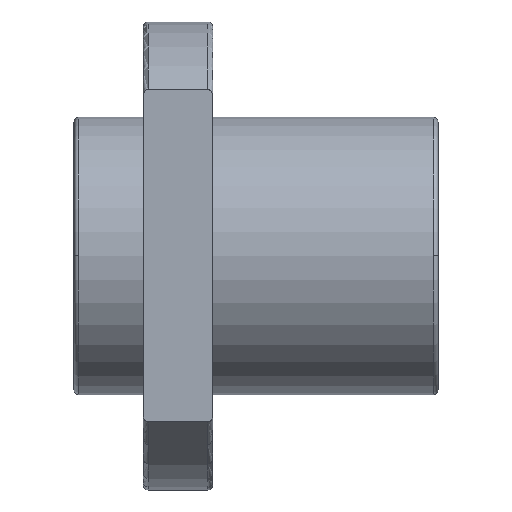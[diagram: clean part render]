
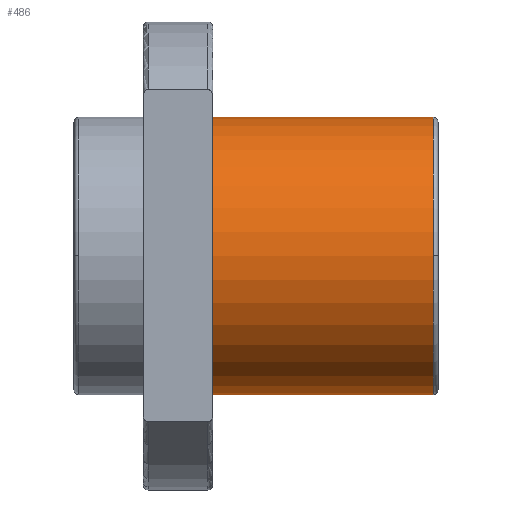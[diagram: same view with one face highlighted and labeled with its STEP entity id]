
A CAD part, top view. The second image highlights one B-rep face of the part: STEP entity #486.
In plain terms, the highlighted cylindrical face has radius 16 mm (diameter 32 mm), a partial arc.
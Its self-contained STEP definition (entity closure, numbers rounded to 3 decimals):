
#335 = TOROIDAL_SURFACE('',#336,15.46,0.54);
#336 = AXIS2_PLACEMENT_3D('',#337,#338,#339);
#337 = CARTESIAN_POINT('',(41.46,0.,0.));
#338 = DIRECTION('',(1.,0.,0.));
#339 = DIRECTION('',(0.,0.,-1.));
#347 = TOROIDAL_SURFACE('',#348,15.46,0.54);
#348 = AXIS2_PLACEMENT_3D('',#349,#350,#351);
#349 = CARTESIAN_POINT('',(41.46,0.,0.));
#350 = DIRECTION('',(1.,0.,0.));
#351 = DIRECTION('',(0.,0.,-1.));
#360 = VERTEX_POINT('',#361);
#361 = CARTESIAN_POINT('',(41.46,16.,0.));
#376 = CYLINDRICAL_SURFACE('',#377,16.);
#377 = AXIS2_PLACEMENT_3D('',#378,#379,#380);
#378 = CARTESIAN_POINT('',(28.73,0.,0.));
#379 = DIRECTION('',(1.,0.,0.));
#380 = DIRECTION('',(-0.,1.,0.));
#388 = EDGE_CURVE('',#360,#389,#391,.T.);
#389 = VERTEX_POINT('',#390);
#390 = CARTESIAN_POINT('',(41.46,0.,16.));
#391 = SURFACE_CURVE('',#392,(#397,#404),.PCURVE_S1.);
#392 = CIRCLE('',#393,16.);
#393 = AXIS2_PLACEMENT_3D('',#394,#395,#396);
#394 = CARTESIAN_POINT('',(41.46,0.,0.));
#395 = DIRECTION('',(1.,0.,0.));
#396 = DIRECTION('',(-0.,1.,0.));
#397 = PCURVE('',#335,#398);
#398 = DEFINITIONAL_REPRESENTATION('',(#399),#403);
#399 = LINE('',#400,#401);
#400 = CARTESIAN_POINT('',(1.571,0.));
#401 = VECTOR('',#402,1.);
#402 = DIRECTION('',(1.,0.));
#403 = ( GEOMETRIC_REPRESENTATION_CONTEXT(2) 
PARAMETRIC_REPRESENTATION_CONTEXT() REPRESENTATION_CONTEXT('2D SPACE',''
  ) );
#404 = PCURVE('',#405,#410);
#405 = CYLINDRICAL_SURFACE('',#406,16.);
#406 = AXIS2_PLACEMENT_3D('',#407,#408,#409);
#407 = CARTESIAN_POINT('',(28.73,0.,0.));
#408 = DIRECTION('',(1.,0.,0.));
#409 = DIRECTION('',(-0.,1.,0.));
#410 = DEFINITIONAL_REPRESENTATION('',(#411),#415);
#411 = LINE('',#412,#413);
#412 = CARTESIAN_POINT('',(0.,12.73));
#413 = VECTOR('',#414,1.);
#414 = DIRECTION('',(1.,0.));
#415 = ( GEOMETRIC_REPRESENTATION_CONTEXT(2) 
PARAMETRIC_REPRESENTATION_CONTEXT() REPRESENTATION_CONTEXT('2D SPACE',''
  ) );
#486 = ADVANCED_FACE('',(#487),#405,.T.);
#487 = FACE_BOUND('',#488,.T.);
#488 = EDGE_LOOP('',(#489,#512,#541,#564,#586));
#489 = ORIENTED_EDGE('',*,*,#490,.F.);
#490 = EDGE_CURVE('',#491,#360,#493,.T.);
#491 = VERTEX_POINT('',#492);
#492 = CARTESIAN_POINT('',(16.,16.,0.));
#493 = SURFACE_CURVE('',#494,(#498,#505),.PCURVE_S1.);
#494 = LINE('',#495,#496);
#495 = CARTESIAN_POINT('',(28.73,16.,0.));
#496 = VECTOR('',#497,1.);
#497 = DIRECTION('',(1.,0.,0.));
#498 = PCURVE('',#405,#499);
#499 = DEFINITIONAL_REPRESENTATION('',(#500),#504);
#500 = LINE('',#501,#502);
#501 = CARTESIAN_POINT('',(0.,0.));
#502 = VECTOR('',#503,1.);
#503 = DIRECTION('',(0.,1.));
#504 = ( GEOMETRIC_REPRESENTATION_CONTEXT(2) 
PARAMETRIC_REPRESENTATION_CONTEXT() REPRESENTATION_CONTEXT('2D SPACE',''
  ) );
#505 = PCURVE('',#376,#506);
#506 = DEFINITIONAL_REPRESENTATION('',(#507),#511);
#507 = LINE('',#508,#509);
#508 = CARTESIAN_POINT('',(6.283,0.));
#509 = VECTOR('',#510,1.);
#510 = DIRECTION('',(0.,1.));
#511 = ( GEOMETRIC_REPRESENTATION_CONTEXT(2) 
PARAMETRIC_REPRESENTATION_CONTEXT() REPRESENTATION_CONTEXT('2D SPACE',''
  ) );
#512 = ORIENTED_EDGE('',*,*,#513,.T.);
#513 = EDGE_CURVE('',#491,#514,#516,.T.);
#514 = VERTEX_POINT('',#515);
#515 = CARTESIAN_POINT('',(16.,-16.,0.));
#516 = SURFACE_CURVE('',#517,(#522,#529),.PCURVE_S1.);
#517 = CIRCLE('',#518,16.);
#518 = AXIS2_PLACEMENT_3D('',#519,#520,#521);
#519 = CARTESIAN_POINT('',(16.,0.,0.));
#520 = DIRECTION('',(1.,0.,0.));
#521 = DIRECTION('',(-0.,1.,0.));
#522 = PCURVE('',#405,#523);
#523 = DEFINITIONAL_REPRESENTATION('',(#524),#528);
#524 = LINE('',#525,#526);
#525 = CARTESIAN_POINT('',(0.,-12.73));
#526 = VECTOR('',#527,1.);
#527 = DIRECTION('',(1.,0.));
#528 = ( GEOMETRIC_REPRESENTATION_CONTEXT(2) 
PARAMETRIC_REPRESENTATION_CONTEXT() REPRESENTATION_CONTEXT('2D SPACE',''
  ) );
#529 = PCURVE('',#530,#535);
#530 = PLANE('',#531);
#531 = AXIS2_PLACEMENT_3D('',#532,#533,#534);
#532 = CARTESIAN_POINT('',(16.,21.23,0.));
#533 = DIRECTION('',(1.,0.,0.));
#534 = DIRECTION('',(0.,1.,0.));
#535 = DEFINITIONAL_REPRESENTATION('',(#536),#540);
#536 = CIRCLE('',#537,16.);
#537 = AXIS2_PLACEMENT_2D('',#538,#539);
#538 = CARTESIAN_POINT('',(-21.23,0.));
#539 = DIRECTION('',(1.,0.));
#540 = ( GEOMETRIC_REPRESENTATION_CONTEXT(2) 
PARAMETRIC_REPRESENTATION_CONTEXT() REPRESENTATION_CONTEXT('2D SPACE',''
  ) );
#541 = ORIENTED_EDGE('',*,*,#542,.F.);
#542 = EDGE_CURVE('',#543,#514,#545,.T.);
#543 = VERTEX_POINT('',#544);
#544 = CARTESIAN_POINT('',(41.46,-16.,0.));
#545 = SURFACE_CURVE('',#546,(#550,#557),.PCURVE_S1.);
#546 = LINE('',#547,#548);
#547 = CARTESIAN_POINT('',(28.73,-16.,0.));
#548 = VECTOR('',#549,1.);
#549 = DIRECTION('',(-1.,-0.,-0.));
#550 = PCURVE('',#405,#551);
#551 = DEFINITIONAL_REPRESENTATION('',(#552),#556);
#552 = LINE('',#553,#554);
#553 = CARTESIAN_POINT('',(3.142,0.));
#554 = VECTOR('',#555,1.);
#555 = DIRECTION('',(0.,-1.));
#556 = ( GEOMETRIC_REPRESENTATION_CONTEXT(2) 
PARAMETRIC_REPRESENTATION_CONTEXT() REPRESENTATION_CONTEXT('2D SPACE',''
  ) );
#557 = PCURVE('',#376,#558);
#558 = DEFINITIONAL_REPRESENTATION('',(#559),#563);
#559 = LINE('',#560,#561);
#560 = CARTESIAN_POINT('',(3.142,0.));
#561 = VECTOR('',#562,1.);
#562 = DIRECTION('',(0.,-1.));
#563 = ( GEOMETRIC_REPRESENTATION_CONTEXT(2) 
PARAMETRIC_REPRESENTATION_CONTEXT() REPRESENTATION_CONTEXT('2D SPACE',''
  ) );
#564 = ORIENTED_EDGE('',*,*,#565,.F.);
#565 = EDGE_CURVE('',#389,#543,#566,.T.);
#566 = SURFACE_CURVE('',#567,(#572,#579),.PCURVE_S1.);
#567 = CIRCLE('',#568,16.);
#568 = AXIS2_PLACEMENT_3D('',#569,#570,#571);
#569 = CARTESIAN_POINT('',(41.46,0.,0.));
#570 = DIRECTION('',(1.,0.,0.));
#571 = DIRECTION('',(-0.,1.,0.));
#572 = PCURVE('',#405,#573);
#573 = DEFINITIONAL_REPRESENTATION('',(#574),#578);
#574 = LINE('',#575,#576);
#575 = CARTESIAN_POINT('',(0.,12.73));
#576 = VECTOR('',#577,1.);
#577 = DIRECTION('',(1.,0.));
#578 = ( GEOMETRIC_REPRESENTATION_CONTEXT(2) 
PARAMETRIC_REPRESENTATION_CONTEXT() REPRESENTATION_CONTEXT('2D SPACE',''
  ) );
#579 = PCURVE('',#347,#580);
#580 = DEFINITIONAL_REPRESENTATION('',(#581),#585);
#581 = LINE('',#582,#583);
#582 = CARTESIAN_POINT('',(1.571,0.));
#583 = VECTOR('',#584,1.);
#584 = DIRECTION('',(1.,0.));
#585 = ( GEOMETRIC_REPRESENTATION_CONTEXT(2) 
PARAMETRIC_REPRESENTATION_CONTEXT() REPRESENTATION_CONTEXT('2D SPACE',''
  ) );
#586 = ORIENTED_EDGE('',*,*,#388,.F.);
